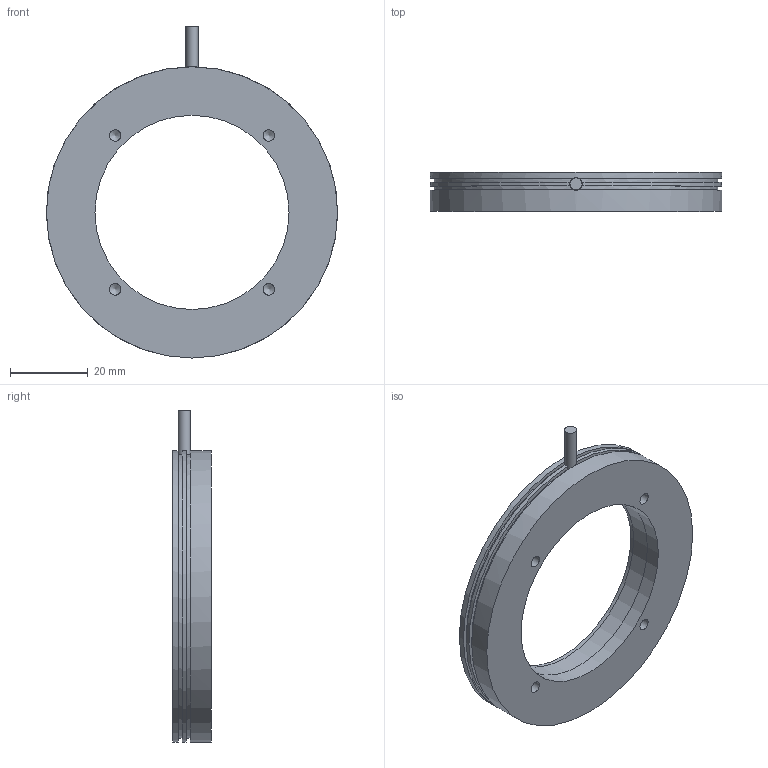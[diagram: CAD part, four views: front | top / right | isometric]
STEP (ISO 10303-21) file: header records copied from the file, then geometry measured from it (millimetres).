
FILE_DESCRIPTION(/* description */ (''),/* implementation_level */ '2;1');
FILE_NAME(/* name */ 'C:\#Vault-WorkDir\Konstruktions-Dokumente\Projekte\Zubehör allgemein\Falcon Beleuchtungen\153-00733_LR 75 xI-24-KFL5.stp',/* time_stamp */ '2018-07-25T09:30:01+02:00',/* author */ ('SensoPart'),/* organization */ ('SensoPart'),/* preprocessor_version */ 'ST-DEVELOPER v17',/* originating_system */ 'Autodesk Inventor 2018',/* authorisation */ '');
FILE_SCHEMA (('AUTOMOTIVE_DESIGN { 1 0 10303 214 3 1 1 }'));
Length unit declared in the file: millimetre
Products named in the file (1): GH-ENG-0026347_Shrinkwrap_1
Bounding box: 75 x 10 x 85.5 mm (x, y, z)
Volume: 23995.7 mm3; surface area: 13160.6 mm2
Topology: 3 solids, 3 shells, 39 faces, 107 edges, 75 vertices
Faces by surface type: cylinder 20, plane 15, cone 4
Full cylindrical faces by diameter (mm): 3 x4, 3.1 x1, 3.2 x1, 50 x3, 52.9 x2, 53 x1, 73.9 x1, 74 x1, 75 x2
Entity records: 1433 total; most frequent: CARTESIAN_POINT 311, DIRECTION 232, ORIENTED_EDGE 206, EDGE_CURVE 103, AXIS2_PLACEMENT_3D 102, VERTEX_POINT 75, CIRCLE 62, EDGE_LOOP 52
